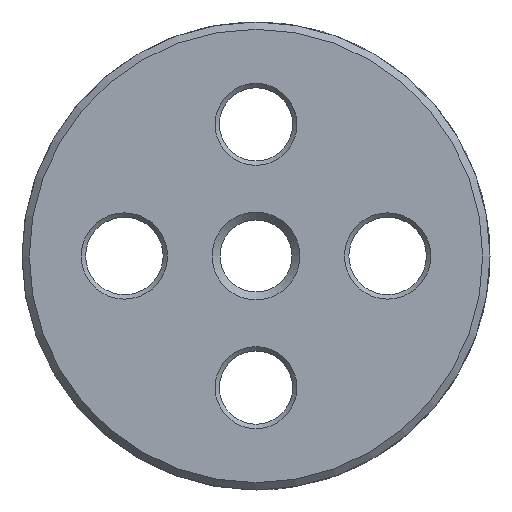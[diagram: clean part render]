
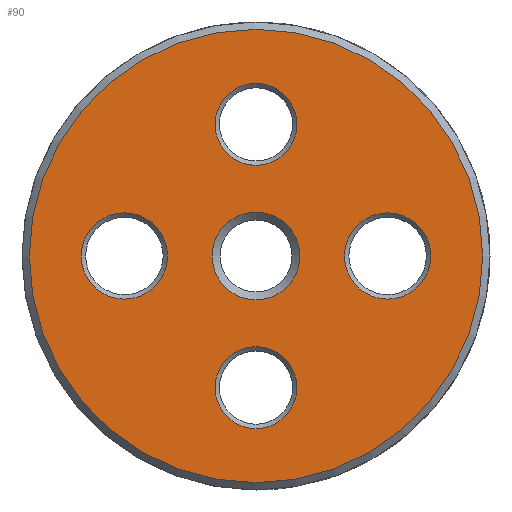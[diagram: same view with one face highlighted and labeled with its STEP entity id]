
A CAD part, front view. The second image highlights one B-rep face of the part: STEP entity #90.
In plain terms, the highlighted planar face has unit normal (0, -1, 0).
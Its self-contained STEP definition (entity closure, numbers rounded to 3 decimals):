
#90 = ADVANCED_FACE( '', ( #151, #152, #153, #154, #155, #156 ), #157, .F. );
#151 = FACE_BOUND( '', #250, .T. );
#152 = FACE_BOUND( '', #251, .T. );
#153 = FACE_BOUND( '', #252, .T. );
#154 = FACE_BOUND( '', #253, .T. );
#155 = FACE_BOUND( '', #254, .T. );
#156 = FACE_OUTER_BOUND( '', #255, .T. );
#157 = PLANE( '', #256 );
#250 = EDGE_LOOP( '', ( #424 ) );
#251 = EDGE_LOOP( '', ( #425 ) );
#252 = EDGE_LOOP( '', ( #426 ) );
#253 = EDGE_LOOP( '', ( #427 ) );
#254 = EDGE_LOOP( '', ( #428 ) );
#255 = EDGE_LOOP( '', ( #429 ) );
#256 = AXIS2_PLACEMENT_3D( '', #430, #431, #432 );
#424 = ORIENTED_EDGE( '', *, *, #611, .F. );
#425 = ORIENTED_EDGE( '', *, *, #603, .F. );
#426 = ORIENTED_EDGE( '', *, *, #615, .F. );
#427 = ORIENTED_EDGE( '', *, *, #616, .F. );
#428 = ORIENTED_EDGE( '', *, *, #617, .F. );
#429 = ORIENTED_EDGE( '', *, *, #618, .T. );
#430 = CARTESIAN_POINT( '', ( 15.5, 0., 0. ) );
#431 = DIRECTION( '', ( 0., 1., 0. ) );
#432 = DIRECTION( '', ( 0., 0., 1. ) );
#603 = EDGE_CURVE( '', #707, #707, #708, .F. );
#611 = EDGE_CURVE( '', #721, #721, #722, .T. );
#615 = EDGE_CURVE( '', #729, #729, #730, .T. );
#616 = EDGE_CURVE( '', #731, #731, #732, .T. );
#617 = EDGE_CURVE( '', #733, #733, #734, .T. );
#618 = EDGE_CURVE( '', #735, #735, #736, .T. );
#707 = VERTEX_POINT( '', #948 );
#708 = CIRCLE( '', #949, 2.95 );
#721 = VERTEX_POINT( '', #966 );
#722 = CIRCLE( '', #967, 3. );
#729 = VERTEX_POINT( '', #974 );
#730 = CIRCLE( '', #975, 2.8 );
#731 = VERTEX_POINT( '', #976 );
#732 = CIRCLE( '', #977, 2.8 );
#733 = VERTEX_POINT( '', #978 );
#734 = CIRCLE( '', #979, 2.95 );
#735 = VERTEX_POINT( '', #980 );
#736 = CIRCLE( '', #981, 15.5 );
#948 = CARTESIAN_POINT( '', ( 9., 0., 2.95 ) );
#949 = AXIS2_PLACEMENT_3D( '', #1095, #1096, #1097 );
#966 = CARTESIAN_POINT( '', ( 0., 0., -3. ) );
#967 = AXIS2_PLACEMENT_3D( '', #1114, #1115, #1116 );
#974 = CARTESIAN_POINT( '', ( 0., 0., 6.2 ) );
#975 = AXIS2_PLACEMENT_3D( '', #1126, #1127, #1128 );
#976 = CARTESIAN_POINT( '', ( 0., 0., -11.8 ) );
#977 = AXIS2_PLACEMENT_3D( '', #1129, #1130, #1131 );
#978 = CARTESIAN_POINT( '', ( -9., 0., -2.95 ) );
#979 = AXIS2_PLACEMENT_3D( '', #1132, #1133, #1134 );
#980 = CARTESIAN_POINT( '', ( 0., 0., -15.5 ) );
#981 = AXIS2_PLACEMENT_3D( '', #1135, #1136, #1137 );
#1095 = CARTESIAN_POINT( '', ( 9., 0., 0. ) );
#1096 = DIRECTION( '', ( 0., 1., 0. ) );
#1097 = DIRECTION( '', ( 0., 0., 1. ) );
#1114 = CARTESIAN_POINT( '', ( 0., 0., 0. ) );
#1115 = DIRECTION( '', ( 0., -1., 0. ) );
#1116 = DIRECTION( '', ( 0., 0., -1. ) );
#1126 = CARTESIAN_POINT( '', ( 0., 0., 9. ) );
#1127 = DIRECTION( '', ( 0., -1., 0. ) );
#1128 = DIRECTION( '', ( 0., 0., -1. ) );
#1129 = CARTESIAN_POINT( '', ( 0., 0., -9. ) );
#1130 = DIRECTION( '', ( 0., -1., 0. ) );
#1131 = DIRECTION( '', ( 0., 0., -1. ) );
#1132 = CARTESIAN_POINT( '', ( -9., 0., 0. ) );
#1133 = DIRECTION( '', ( 0., -1., 0. ) );
#1134 = DIRECTION( '', ( 0., 0., -1. ) );
#1135 = CARTESIAN_POINT( '', ( 0., 0., 0. ) );
#1136 = DIRECTION( '', ( 0., -1., 0. ) );
#1137 = DIRECTION( '', ( 0., 0., -1. ) );
